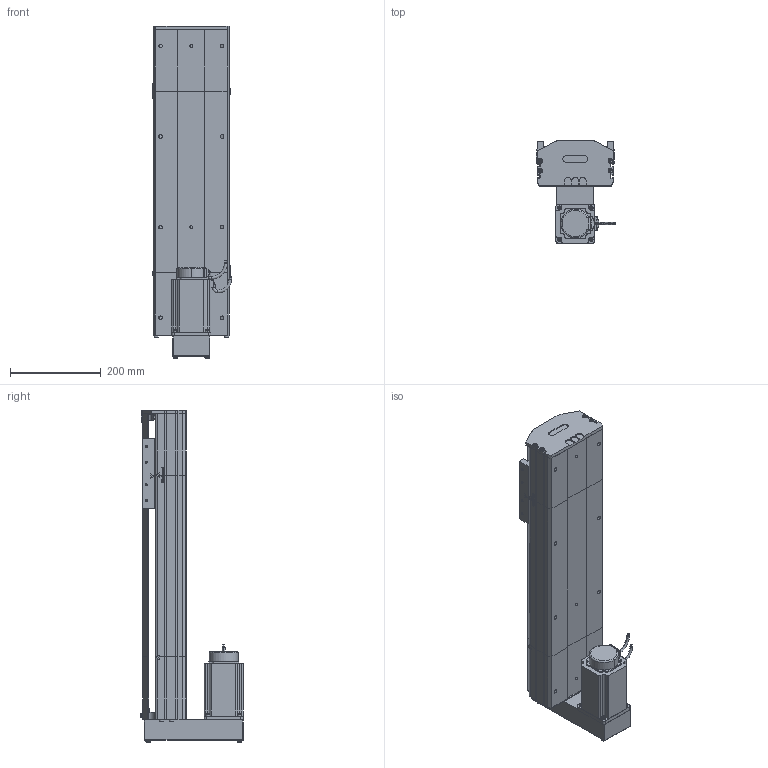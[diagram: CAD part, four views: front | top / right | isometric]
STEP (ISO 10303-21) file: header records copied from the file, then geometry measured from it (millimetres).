
FILE_DESCRIPTION (( 'STEP AP214' ), '1' );
FILE_NAME ('D17 TSH BM S400.STEP', '2010-06-29T14:47:52', ( 'Christophe Gaillard' ), ( 'SGA' ), 'SwSTEP 2.0', 'SolidWorks 2010', '' );
FILE_SCHEMA (( 'AUTOMOTIVE_DESIGN' ));
Length unit declared in the file: millimetre
Products named in the file (33): Arbre+rail head D17; vis M5 L12_Default; chariot D17S_Default; Cvis M5 L70_Default; codeur 90BLDC125-640; corps 90BLDC125A-640; avant 90BLDC125A-640; Moteur motionking 90BLDC125A-640; vis M5 L5_Default; Chariot D17; guide D17; Conecteur_Default; Conecteur2_Default; renvoi Bm_Default; Vis M5 L16-2_Default; head BM_Default; vis M5 L25_Default; D17 TSH BM S400; couvercle D17 head_Default; corpl head D17 BM_Default; corp D17 400_Default; plaque de  bout BM head D17_Default; tete d''axe bas D17; vis M5 L8 90°_Default; couvercle D17_Default; Arbre+rail tail D17; corpl tail D17_Default; Tail D17_Default; couvercle D17 course L400_Default; plaque de  bout tail D17_Default; tete d''axe haut D17; course 400 D17_Default; arbre + rail D17 Course 400 
Assembly tree (55 placements, depth 4):
  D17 TSH BM S400
    chariot D17S_Default
      vis M5 L12_Default  x4
      Chariot D17
      guide D17  x2
    head BM_Default
      Vis M5 L16-2_Default  x4
      Cvis M5 L70_Default  x2
      vis M5 L12_Default  x8
      Moteur motionking 90BLDC125A-640
        corps 90BLDC125A-640
        avant 90BLDC125A-640
        codeur 90BLDC125-640
        Conecteur_Default
        Conecteur2_Default
      vis M5 L5_Default  x2
      plaque de  bout BM head D17_Default
      Arbre+rail head D17
      couvercle D17 head_Default
      renvoi Bm_Default
      corpl head D17 BM_Default
    Tail D17_Default
      Arbre+rail tail D17
      vis M5 L25_Default  x2
      plaque de  bout tail D17_Default
      vis M5 L12_Default  x4
      corpl tail D17_Default
      vis M5 L8 90°_Default  x2
      tete d''axe bas D17
      couvercle D17_Default
      tete d''axe haut D17
    course 400 D17_Default
      couvercle D17 course L400_Default
      arbre + rail D17 Course 400 
      corp D17 400_Default
Bounding box: 174.95 x 225.7 x 732.7 mm (x, y, z)
Volume: 5662680.2 mm3; surface area: 1384976.6 mm2
Topology: 80 solids, 80 shells, 2225 faces, 5561 edges, 3588 vertices
Faces by surface type: plane 1396, cylinder 552, bspline 136, torus 73, cone 64, sphere 4
Entity records: 71627 total; most frequent: CARTESIAN_POINT 22450, ORIENTED_EDGE 8630, DIRECTION 8092, EDGE_CURVE 4315, LINE 3020, VECTOR 3020, VERTEX_POINT 2834, AXIS2_PLACEMENT_3D 2536
